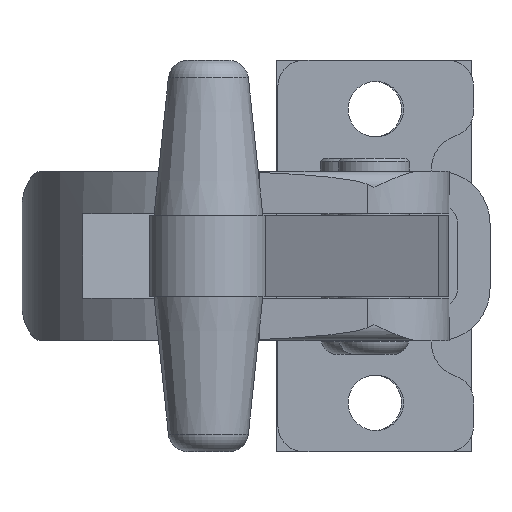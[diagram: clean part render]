
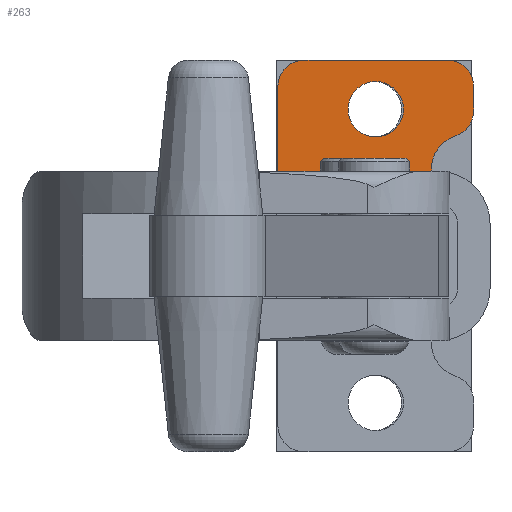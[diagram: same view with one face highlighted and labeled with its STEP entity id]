
A CAD part, front view. The second image highlights one B-rep face of the part: STEP entity #263.
In plain terms, the highlighted planar face has unit normal (0, -1, 0).
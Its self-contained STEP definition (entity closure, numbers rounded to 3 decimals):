
#263 = ADVANCED_FACE( '', ( #512, #513 ), #514, .T. );
#512 = FACE_BOUND( '', #1010, .T. );
#513 = FACE_OUTER_BOUND( '', #1011, .T. );
#514 = PLANE( '', #1012 );
#1010 = EDGE_LOOP( '', ( #1647 ) );
#1011 = EDGE_LOOP( '', ( #1648, #1649, #1650, #1651, #1652, #1653, #1654, #1655, #1656 ) );
#1012 = AXIS2_PLACEMENT_3D( '', #1657, #1658, #1659 );
#1647 = ORIENTED_EDGE( '', *, *, #3316, .T. );
#1648 = ORIENTED_EDGE( '', *, *, #3317, .F. );
#1649 = ORIENTED_EDGE( '', *, *, #3318, .T. );
#1650 = ORIENTED_EDGE( '', *, *, #3319, .F. );
#1651 = ORIENTED_EDGE( '', *, *, #3320, .F. );
#1652 = ORIENTED_EDGE( '', *, *, #3321, .F. );
#1653 = ORIENTED_EDGE( '', *, *, #3322, .F. );
#1654 = ORIENTED_EDGE( '', *, *, #3323, .F. );
#1655 = ORIENTED_EDGE( '', *, *, #3262, .T. );
#1656 = ORIENTED_EDGE( '', *, *, #3315, .F. );
#1657 = CARTESIAN_POINT( '', ( 50., 17.287, 13.013 ) );
#1658 = DIRECTION( '', ( 0., -1., 0. ) );
#1659 = DIRECTION( '', ( 0., 0., -1. ) );
#3262 = EDGE_CURVE( '', #3851, #3849, #3852, .T. );
#3315 = EDGE_CURVE( '', #3942, #3849, #3944, .T. );
#3316 = EDGE_CURVE( '', #3945, #3945, #3946, .F. );
#3317 = EDGE_CURVE( '', #3947, #3942, #3948, .T. );
#3318 = EDGE_CURVE( '', #3947, #3949, #3950, .F. );
#3319 = EDGE_CURVE( '', #3951, #3949, #3952, .F. );
#3320 = EDGE_CURVE( '', #3953, #3951, #3954, .T. );
#3321 = EDGE_CURVE( '', #3955, #3953, #3956, .F. );
#3322 = EDGE_CURVE( '', #3957, #3955, #3958, .T. );
#3323 = EDGE_CURVE( '', #3851, #3957, #3959, .F. );
#3849 = VERTEX_POINT( '', #4804 );
#3851 = VERTEX_POINT( '', #4807 );
#3852 = LINE( '', #4808, #4809 );
#3942 = VERTEX_POINT( '', #4932 );
#3944 = LINE( '', #4935, #4936 );
#3945 = VERTEX_POINT( '', #4937 );
#3946 = CIRCLE( '', #4938, 4.25 );
#3947 = VERTEX_POINT( '', #4939 );
#3948 = LINE( '', #4940, #4941 );
#3949 = VERTEX_POINT( '', #4942 );
#3950 = CIRCLE( '', #4943, 5.5 );
#3951 = VERTEX_POINT( '', #4944 );
#3952 = CIRCLE( '', #4945, 4. );
#3953 = VERTEX_POINT( '', #4946 );
#3954 = LINE( '', #4947, #4948 );
#3955 = VERTEX_POINT( '', #4949 );
#3956 = CIRCLE( '', #4950, 4. );
#3957 = VERTEX_POINT( '', #4951 );
#3958 = LINE( '', #4952, #4953 );
#3959 = CIRCLE( '', #4954, 4. );
#4804 = CARTESIAN_POINT( '', ( -12., 17.287, 13.013 ) );
#4807 = CARTESIAN_POINT( '', ( -12., 17.287, 26. ) );
#4808 = CARTESIAN_POINT( '', ( -12., 17.287, 30. ) );
#4809 = VECTOR( '', #6367, 1000. );
#4932 = CARTESIAN_POINT( '', ( 11.56, 17.287, 13.013 ) );
#4935 = CARTESIAN_POINT( '', ( 50., 17.287, 13.013 ) );
#4936 = VECTOR( '', #6456, 1000. );
#4937 = CARTESIAN_POINT( '', ( 3., 17.287, 18.253 ) );
#4938 = AXIS2_PLACEMENT_3D( '', #6457, #6458, #6459 );
#4939 = CARTESIAN_POINT( '', ( 11.56, 17.287, 14.016 ) );
#4940 = CARTESIAN_POINT( '', ( 11.56, 17.287, 13.013 ) );
#4941 = VECTOR( '', #6460, 1000. );
#4942 = CARTESIAN_POINT( '', ( 15.263, 17.287, 18.421 ) );
#4943 = AXIS2_PLACEMENT_3D( '', #6461, #6462, #6463 );
#4944 = CARTESIAN_POINT( '', ( 18., 17.287, 22.217 ) );
#4945 = AXIS2_PLACEMENT_3D( '', #6464, #6465, #6466 );
#4946 = CARTESIAN_POINT( '', ( 18., 17.287, 26. ) );
#4947 = CARTESIAN_POINT( '', ( 18., 17.287, 13.013 ) );
#4948 = VECTOR( '', #6467, 1000. );
#4949 = CARTESIAN_POINT( '', ( 14., 17.287, 30. ) );
#4950 = AXIS2_PLACEMENT_3D( '', #6468, #6469, #6470 );
#4951 = CARTESIAN_POINT( '', ( -8., 17.287, 30. ) );
#4952 = CARTESIAN_POINT( '', ( 0.868, 17.287, 30. ) );
#4953 = VECTOR( '', #6471, 1000. );
#4954 = AXIS2_PLACEMENT_3D( '', #6472, #6473, #6474 );
#6367 = DIRECTION( '', ( 0., 0., -1. ) );
#6456 = DIRECTION( '', ( -1., 0., 0. ) );
#6457 = CARTESIAN_POINT( '', ( 3., 17.287, 22.503 ) );
#6458 = DIRECTION( '', ( 0., -1., 0. ) );
#6459 = DIRECTION( '', ( 0., 0., -1. ) );
#6460 = DIRECTION( '', ( 0., 0., -1. ) );
#6461 = CARTESIAN_POINT( '', ( 17., 17.287, 13.203 ) );
#6462 = DIRECTION( '', ( 0., -1., 0. ) );
#6463 = DIRECTION( '', ( 0., 0., -1. ) );
#6464 = CARTESIAN_POINT( '', ( 14., 17.287, 22.217 ) );
#6465 = DIRECTION( '', ( 0., -1., 0. ) );
#6466 = DIRECTION( '', ( 0., 0., -1. ) );
#6467 = DIRECTION( '', ( 0., 0., -1. ) );
#6468 = CARTESIAN_POINT( '', ( 14., 17.287, 26. ) );
#6469 = DIRECTION( '', ( 0., -1., 0. ) );
#6470 = DIRECTION( '', ( 0., 0., -1. ) );
#6471 = DIRECTION( '', ( 1., 0., 0. ) );
#6472 = CARTESIAN_POINT( '', ( -8., 17.287, 26. ) );
#6473 = DIRECTION( '', ( 0., -1., 0. ) );
#6474 = DIRECTION( '', ( 0., 0., -1. ) );
